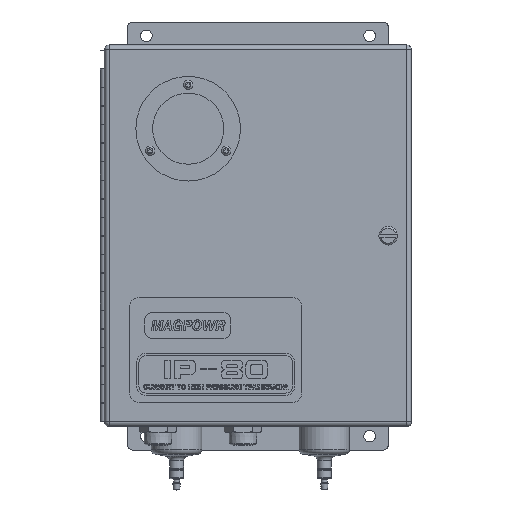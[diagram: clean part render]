
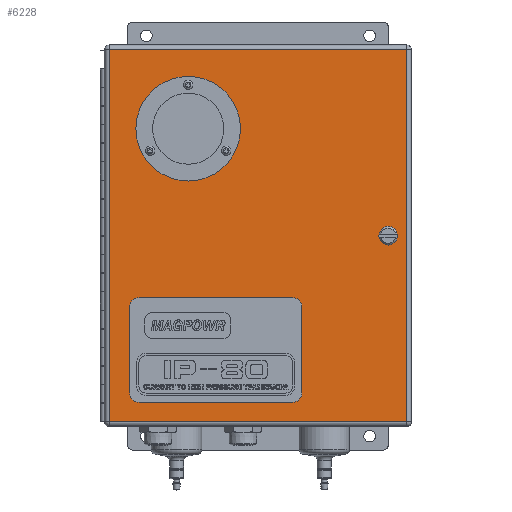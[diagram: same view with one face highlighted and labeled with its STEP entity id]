
A CAD part, top view. The second image highlights one B-rep face of the part: STEP entity #6228.
In plain terms, the highlighted planar face has unit normal (0, 0, 1).
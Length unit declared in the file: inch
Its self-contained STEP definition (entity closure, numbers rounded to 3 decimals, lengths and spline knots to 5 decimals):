
#5742=CARTESIAN_POINT('',(4.,-5.,4.425));
#5743=VERTEX_POINT('',#5742);
#5809=CARTESIAN_POINT('',(-4.,-5.,4.425));
#5810=VERTEX_POINT('',#5809);
#5882=CARTESIAN_POINT('',(4.,-5.,4.425));
#5883=DIRECTION('',(-1.0,0.0,0.0));
#5884=VECTOR('',#5883,8.);
#5885=LINE('',#5882,#5884);
#5886=EDGE_CURVE('',#5743,#5810,#5885,.T.);
#5898=CARTESIAN_POINT('',(4.,5.,4.425));
#5899=VERTEX_POINT('',#5898);
#5965=CARTESIAN_POINT('',(-4.,5.0,4.425));
#5966=VERTEX_POINT('',#5965);
#6038=CARTESIAN_POINT('',(-4.,-5.,4.425));
#6039=DIRECTION('',(0.0,1.0,0.0));
#6040=VECTOR('',#6039,10.0);
#6041=LINE('',#6038,#6040);
#6042=EDGE_CURVE('',#5810,#5966,#6041,.T.);
#6060=CARTESIAN_POINT('',(-4.,5.0,4.425));
#6061=DIRECTION('',(1.0,0.0,0.0));
#6062=VECTOR('',#6061,8.);
#6063=LINE('',#6060,#6062);
#6064=EDGE_CURVE('',#5966,#5899,#6063,.T.);
#6082=CARTESIAN_POINT('',(4.,5.0,4.425));
#6083=DIRECTION('',(0.0,-1.0,0.0));
#6084=VECTOR('',#6083,10.0);
#6085=LINE('',#6082,#6084);
#6086=EDGE_CURVE('',#5899,#5743,#6085,.T.);
#6125=CARTESIAN_POINT('',(0.,0.,4.425));
#6126=DIRECTION('',(0.0,0.0,1.0));
#6127=DIRECTION('',(1.0,0.0,0.0));
#6128=AXIS2_PLACEMENT_3D('',#6125,#6126,#6127);
#6129=PLANE('',#6128);
#6130=ORIENTED_EDGE('',*,*,#5886,.F.);
#6131=ORIENTED_EDGE('',*,*,#6086,.F.);
#6132=ORIENTED_EDGE('',*,*,#6064,.F.);
#6133=ORIENTED_EDGE('',*,*,#6042,.F.);
#6134=EDGE_LOOP('',(#6130,#6131,#6132,#6133));
#6135=FACE_OUTER_BOUND('',#6134,.T.);
#6136=CARTESIAN_POINT('',(-0.47,2.875,4.425));
#6137=VERTEX_POINT('',#6136);
#6138=CARTESIAN_POINT('',(-1.875,2.875,4.425));
#6139=DIRECTION('',(0.0,0.0,-1.0));
#6140=DIRECTION('',(-1.0,0.0,0.0));
#6141=AXIS2_PLACEMENT_3D('',#6138,#6139,#6140);
#6142=CIRCLE('',#6141,1.405);
#6143=EDGE_CURVE('',#6137,#6137,#6142,.T.);
#6144=ORIENTED_EDGE('',*,*,#6143,.T.);
#6145=EDGE_LOOP('',(#6144));
#6146=FACE_BOUND('',#6145,.T.);
#6147=CARTESIAN_POINT('',(3.73,0.,4.425));
#6148=VERTEX_POINT('',#6147);
#6149=CARTESIAN_POINT('',(3.5,0.,4.425));
#6150=DIRECTION('',(0.0,0.0,-1.0));
#6151=DIRECTION('',(-1.0,0.0,0.0));
#6152=AXIS2_PLACEMENT_3D('',#6149,#6150,#6151);
#6153=CIRCLE('',#6152,0.23);
#6154=EDGE_CURVE('',#6148,#6148,#6153,.T.);
#6155=ORIENTED_EDGE('',*,*,#6154,.T.);
#6156=EDGE_LOOP('',(#6155));
#6157=FACE_BOUND('',#6156,.T.);
#6158=CARTESIAN_POINT('',(0.93,-1.6625,4.425));
#6159=VERTEX_POINT('',#6158);
#6160=CARTESIAN_POINT('',(1.18,-1.9125,4.425));
#6161=VERTEX_POINT('',#6160);
#6162=CARTESIAN_POINT('',(0.93,-1.9125,4.425));
#6163=DIRECTION('',(0.0,0.0,-1.0));
#6164=DIRECTION('',(-1.0,0.0,0.0));
#6165=AXIS2_PLACEMENT_3D('',#6162,#6163,#6164);
#6166=CIRCLE('',#6165,0.25);
#6167=EDGE_CURVE('',#6159,#6161,#6166,.T.);
#6168=ORIENTED_EDGE('',*,*,#6167,.T.);
#6169=CARTESIAN_POINT('',(1.18,-4.225,4.425));
#6170=VERTEX_POINT('',#6169);
#6171=CARTESIAN_POINT('',(1.18,-1.9125,4.425));
#6172=DIRECTION('',(0.0,-1.0,0.0));
#6173=VECTOR('',#6172,2.3125);
#6174=LINE('',#6171,#6173);
#6175=EDGE_CURVE('',#6161,#6170,#6174,.T.);
#6176=ORIENTED_EDGE('',*,*,#6175,.T.);
#6177=CARTESIAN_POINT('',(0.93,-4.475,4.425));
#6178=VERTEX_POINT('',#6177);
#6179=CARTESIAN_POINT('',(0.93,-4.225,4.425));
#6180=DIRECTION('',(0.0,0.0,-1.0));
#6181=DIRECTION('',(0.0,1.0,0.0));
#6182=AXIS2_PLACEMENT_3D('',#6179,#6180,#6181);
#6183=CIRCLE('',#6182,0.25);
#6184=EDGE_CURVE('',#6170,#6178,#6183,.T.);
#6185=ORIENTED_EDGE('',*,*,#6184,.T.);
#6186=CARTESIAN_POINT('',(-3.195,-4.475,4.425));
#6187=VERTEX_POINT('',#6186);
#6188=CARTESIAN_POINT('',(0.93,-4.475,4.425));
#6189=DIRECTION('',(-1.0,0.0,0.0));
#6190=VECTOR('',#6189,4.125);
#6191=LINE('',#6188,#6190);
#6192=EDGE_CURVE('',#6178,#6187,#6191,.T.);
#6193=ORIENTED_EDGE('',*,*,#6192,.T.);
#6194=CARTESIAN_POINT('',(-3.445,-4.225,4.425));
#6195=VERTEX_POINT('',#6194);
#6196=CARTESIAN_POINT('',(-3.195,-4.225,4.425));
#6197=DIRECTION('',(0.0,0.0,-1.0));
#6198=DIRECTION('',(1.0,0.0,0.0));
#6199=AXIS2_PLACEMENT_3D('',#6196,#6197,#6198);
#6200=CIRCLE('',#6199,0.25);
#6201=EDGE_CURVE('',#6187,#6195,#6200,.T.);
#6202=ORIENTED_EDGE('',*,*,#6201,.T.);
#6203=CARTESIAN_POINT('',(-3.445,-1.9125,4.425));
#6204=VERTEX_POINT('',#6203);
#6205=CARTESIAN_POINT('',(-3.445,-4.225,4.425));
#6206=DIRECTION('',(0.0,1.0,0.0));
#6207=VECTOR('',#6206,2.3125);
#6208=LINE('',#6205,#6207);
#6209=EDGE_CURVE('',#6195,#6204,#6208,.T.);
#6210=ORIENTED_EDGE('',*,*,#6209,.T.);
#6211=CARTESIAN_POINT('',(-3.195,-1.6625,4.425));
#6212=VERTEX_POINT('',#6211);
#6213=CARTESIAN_POINT('',(-3.195,-1.9125,4.425));
#6214=DIRECTION('',(0.0,0.0,-1.0));
#6215=DIRECTION('',(0.0,-1.0,0.0));
#6216=AXIS2_PLACEMENT_3D('',#6213,#6214,#6215);
#6217=CIRCLE('',#6216,0.25);
#6218=EDGE_CURVE('',#6204,#6212,#6217,.T.);
#6219=ORIENTED_EDGE('',*,*,#6218,.T.);
#6220=CARTESIAN_POINT('',(-3.195,-1.6625,4.425));
#6221=DIRECTION('',(1.0,0.0,0.0));
#6222=VECTOR('',#6221,4.125);
#6223=LINE('',#6220,#6222);
#6224=EDGE_CURVE('',#6212,#6159,#6223,.T.);
#6225=ORIENTED_EDGE('',*,*,#6224,.T.);
#6226=EDGE_LOOP('',(#6168,#6176,#6185,#6193,#6202,#6210,#6219,#6225));
#6227=FACE_BOUND('',#6226,.T.);
#6228=ADVANCED_FACE('',(#6135,#6146,#6157,#6227),#6129,.T.);
